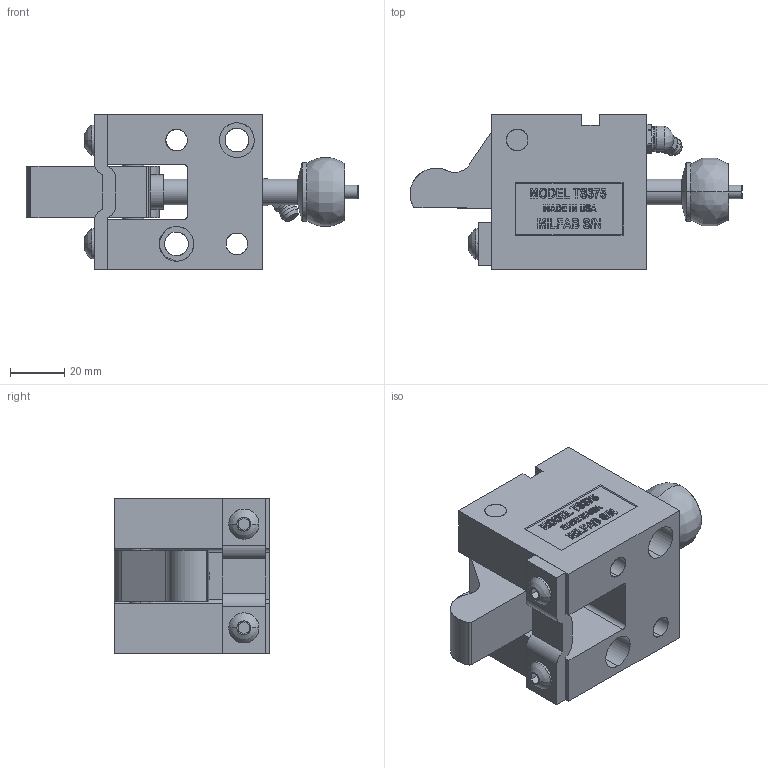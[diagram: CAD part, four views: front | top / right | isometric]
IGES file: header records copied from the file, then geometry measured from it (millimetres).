
Start section: SolidWorks IGES file using analytic representation for surfaces
Global section: file name: Y:\JIM'S INCH CAM UNITS\TS37545\CLOSED\TS37545-C.IGS; native system: SolidWorks 2006 by SolidWorks Corporation; preprocessor: SolidWorks 2006 by SolidWorks Corporation; author: Jim; date: 090210.112809; units: inch
Bounding box: 121.9 x 57.15 x 57.15 mm (x, y, z)
Surface area: 46947.6 mm2 (no closed solid volume)
Topology: 0 solids, 0 shells, 580 faces, 6933 edges, 6929 vertices
Faces by surface type: bspline 456, revolution 124
